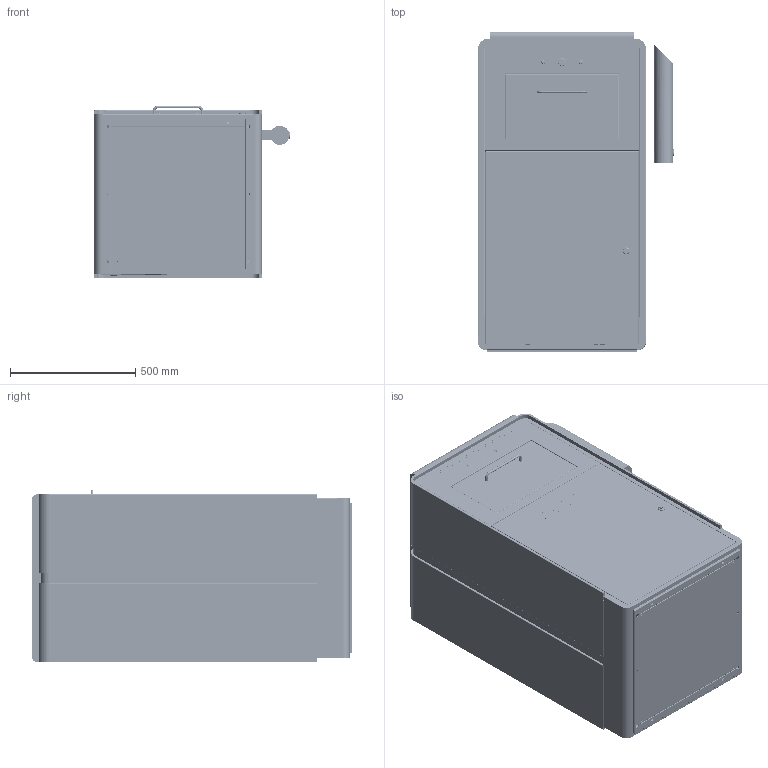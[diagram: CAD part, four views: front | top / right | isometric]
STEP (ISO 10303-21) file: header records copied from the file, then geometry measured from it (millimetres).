
FILE_DESCRIPTION (( 'STEP AP203' ), '1' );
FILE_NAME ('WYB2006.STEP', '2025-10-06T08:09:16', ( '' ), ( '' ), 'SwSTEP 2.0', 'SolidWorks 2025', '' );
FILE_SCHEMA (( 'CONFIG_CONTROL_DESIGN' ));
Length unit declared in the file: millimetre
Products named in the file (9): BASE-WYB2006_Predeterminado; WYB2006; SOLAR PANEL1-WYB2006; LOCK-WYB2006_Predeterminado; SENSOR-WYB2006_Predeterminado; SOLAR PANEL-WYB2006_Predeterminado; LED FRONT-WYB2006_Predeterminado; PLATE-WYB2006_Predeterminado; OPEN DOOR-WYB2006_Predeterminado
Assembly tree (8 placements, depth 2):
  WYB2006
    BASE-WYB2006_Predeterminado
    LED FRONT-WYB2006_Predeterminado
    OPEN DOOR-WYB2006_Predeterminado
    SOLAR PANEL-WYB2006_Predeterminado
    SENSOR-WYB2006_Predeterminado
    PLATE-WYB2006_Predeterminado
    LOCK-WYB2006_Predeterminado
    SOLAR PANEL1-WYB2006
Bounding box: 782 x 1280 x 687.5 mm (x, y, z)
Volume: 18509991.8 mm3; surface area: 19020491 mm2
Topology: 172 solids, 172 shells, 9500 faces, 24346 edges, 15574 vertices
Faces by surface type: plane 6271, cylinder 2207, bspline 939, cone 45, torus 34, sphere 4
Entity records: 333595 total; most frequent: CARTESIAN_POINT 104263, ORIENTED_EDGE 48678, DIRECTION 43835, EDGE_CURVE 24339, LINE 17931, VECTOR 17931, VERTEX_POINT 15575, AXIS2_PLACEMENT_3D 12952
